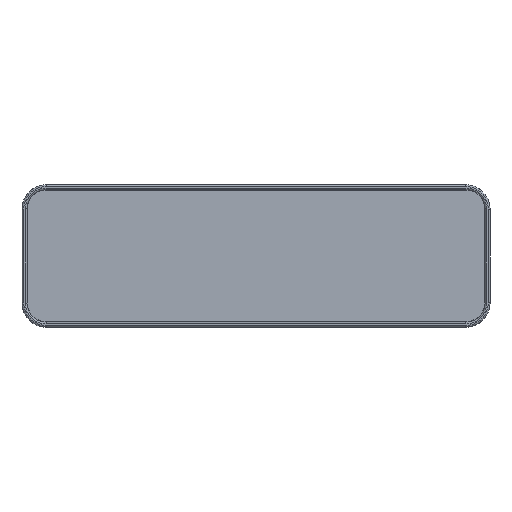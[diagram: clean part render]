
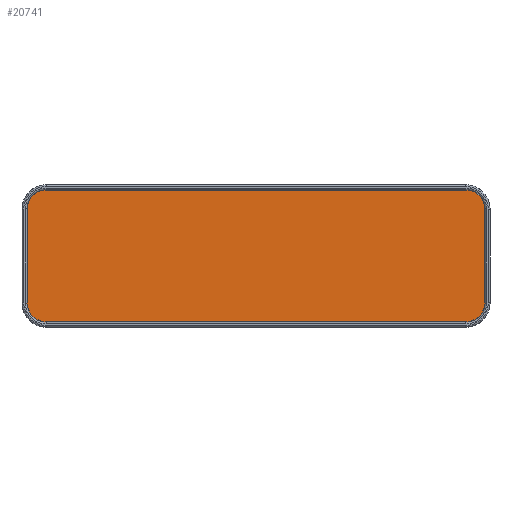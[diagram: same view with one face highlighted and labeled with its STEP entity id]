
A CAD part, top view. The second image highlights one B-rep face of the part: STEP entity #20741.
In plain terms, the highlighted planar face has unit normal (0, 0, 1).
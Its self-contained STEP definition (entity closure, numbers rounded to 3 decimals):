
#20426=CARTESIAN_POINT('',(43.5,5.,0.6));
#20427=DIRECTION('',(0.,0.,-1.));
#20428=DIRECTION('',(0.,1.,0.));
#20429=AXIS2_PLACEMENT_3D('',#20426,#20427,#20428);
#20431=DIRECTION('',(0.,-1.,0.));
#20432=VECTOR('',#20431,19.5);
#20433=CARTESIAN_POINT('',(47.4,5.,0.6));
#20434=LINE('',#20433,#20432);
#20435=CARTESIAN_POINT('',(43.5,-14.5,0.6));
#20436=DIRECTION('',(0.,0.,-1.));
#20437=DIRECTION('',(1.,0.,0.));
#20438=AXIS2_PLACEMENT_3D('',#20435,#20436,#20437);
#20440=DIRECTION('',(-1.,0.,0.));
#20441=VECTOR('',#20440,87.);
#20442=CARTESIAN_POINT('',(43.5,-18.4,0.6));
#20443=LINE('',#20442,#20441);
#20444=CARTESIAN_POINT('',(-43.5,-14.5,0.6));
#20445=DIRECTION('',(0.,0.,-1.));
#20446=DIRECTION('',(0.,-1.,0.));
#20447=AXIS2_PLACEMENT_3D('',#20444,#20445,#20446);
#20449=DIRECTION('',(0.,1.,0.));
#20450=VECTOR('',#20449,19.5);
#20451=CARTESIAN_POINT('',(-47.4,-14.5,0.6));
#20452=LINE('',#20451,#20450);
#20453=CARTESIAN_POINT('',(-43.5,5.,0.6));
#20454=DIRECTION('',(0.,0.,-1.));
#20455=DIRECTION('',(-1.,0.,0.));
#20456=AXIS2_PLACEMENT_3D('',#20453,#20454,#20455);
#20458=DIRECTION('',(1.,0.,0.));
#20459=VECTOR('',#20458,87.);
#20460=CARTESIAN_POINT('',(-43.5,8.9,0.6));
#20461=LINE('',#20460,#20459);
#20556=CARTESIAN_POINT('',(47.4,5.,0.6));
#20557=VERTEX_POINT('',#20556);
#20558=CARTESIAN_POINT('',(43.5,8.9,0.6));
#20559=VERTEX_POINT('',#20558);
#20560=CARTESIAN_POINT('',(47.4,-14.5,0.6));
#20561=VERTEX_POINT('',#20560);
#20562=CARTESIAN_POINT('',(43.5,-18.4,0.6));
#20563=VERTEX_POINT('',#20562);
#20564=CARTESIAN_POINT('',(-43.5,-18.4,0.6));
#20565=VERTEX_POINT('',#20564);
#20566=CARTESIAN_POINT('',(-47.4,-14.5,0.6));
#20567=VERTEX_POINT('',#20566);
#20568=CARTESIAN_POINT('',(-47.4,5.,0.6));
#20569=VERTEX_POINT('',#20568);
#20570=CARTESIAN_POINT('',(-43.5,8.9,0.6));
#20571=VERTEX_POINT('',#20570);
#20726=CARTESIAN_POINT('',(0.,0.,0.6));
#20727=DIRECTION('',(0.,0.,1.));
#20728=DIRECTION('',(1.,0.,0.));
#20729=AXIS2_PLACEMENT_3D('',#20726,#20727,#20728);
#20730=PLANE('',#20729);
#20731=ORIENTED_EDGE('',*,*,#20622,.T.);
#20732=ORIENTED_EDGE('',*,*,#20638,.T.);
#20733=ORIENTED_EDGE('',*,*,#20651,.T.);
#20734=ORIENTED_EDGE('',*,*,#20666,.T.);
#20735=ORIENTED_EDGE('',*,*,#20679,.T.);
#20736=ORIENTED_EDGE('',*,*,#20692,.T.);
#20737=ORIENTED_EDGE('',*,*,#20707,.T.);
#20738=ORIENTED_EDGE('',*,*,#20719,.T.);
#20739=EDGE_LOOP('',(#20731,#20732,#20733,#20734,#20735,#20736,#20737,#20738));
#20740=FACE_OUTER_BOUND('',#20739,.F.);
#20741=ADVANCED_FACE('',(#20740),#20730,.T.);
#20430=CIRCLE('',#20429,3.9);
#20439=CIRCLE('',#20438,3.9);
#20448=CIRCLE('',#20447,3.9);
#20457=CIRCLE('',#20456,3.9);
#20622=EDGE_CURVE('',#20559,#20557,#20430,.T.);
#20638=EDGE_CURVE('',#20557,#20561,#20434,.T.);
#20651=EDGE_CURVE('',#20561,#20563,#20439,.T.);
#20666=EDGE_CURVE('',#20563,#20565,#20443,.T.);
#20679=EDGE_CURVE('',#20565,#20567,#20448,.T.);
#20692=EDGE_CURVE('',#20567,#20569,#20452,.T.);
#20707=EDGE_CURVE('',#20569,#20571,#20457,.T.);
#20719=EDGE_CURVE('',#20571,#20559,#20461,.T.);
